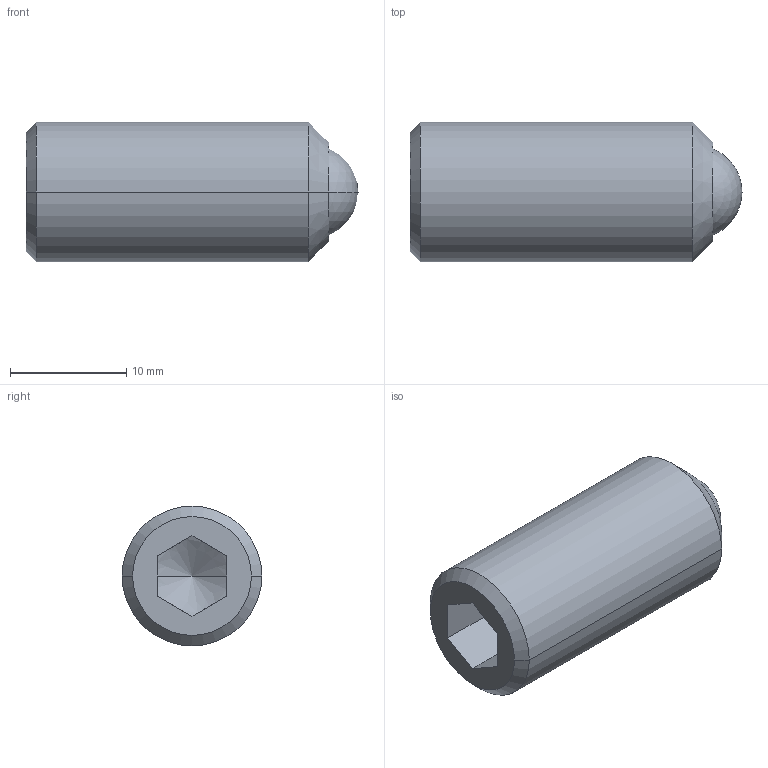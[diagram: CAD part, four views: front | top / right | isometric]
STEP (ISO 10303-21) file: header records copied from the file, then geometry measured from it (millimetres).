
FILE_DESCRIPTION (( 'STEP AP214' ), '1' );
FILE_NAME ('615.3-M12-KS-PFB.step', '2021-10-11T13:49:07', ( '' ), ( '' ), 'SwSTEP 2.0', 'SolidWorks 2019', '' );
FILE_SCHEMA (( 'AUTOMOTIVE_DESIGN' ));
Length unit declared in the file: millimetre
Products named in the file (1): 615.3-M12-KS-PFB
Bounding box: 28.5 x 12 x 12 mm (x, y, z)
Volume: 2758.5 mm3; surface area: 1339 mm2
Topology: 1 solids, 1 shells, 20 faces, 50 edges, 30 vertices
Faces by surface type: plane 8, cone 6, cylinder 4, sphere 2
Entity records: 660 total; most frequent: CARTESIAN_POINT 141, DIRECTION 92, ORIENTED_EDGE 88, EDGE_CURVE 44, AXIS2_PLACEMENT_3D 35, VERTEX_POINT 28, VECTOR 22, LINE 22
